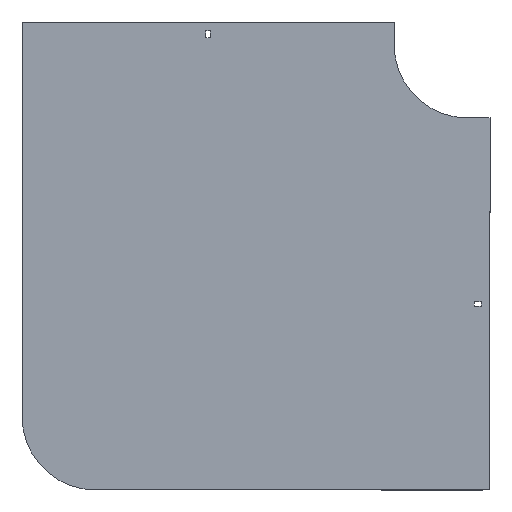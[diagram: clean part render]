
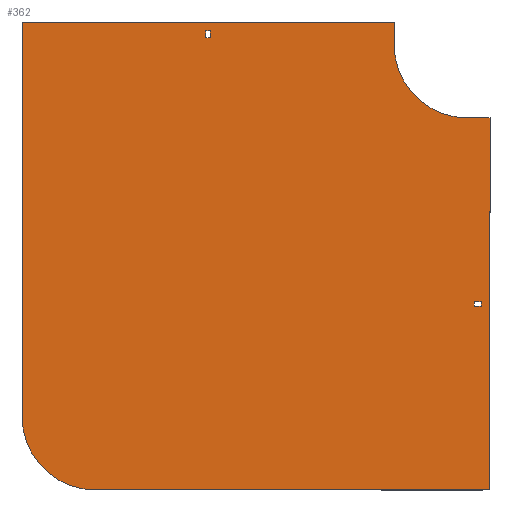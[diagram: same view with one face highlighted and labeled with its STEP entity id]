
A CAD part, front view. The second image highlights one B-rep face of the part: STEP entity #362.
In plain terms, the highlighted planar face has unit normal (0, -1, 0).
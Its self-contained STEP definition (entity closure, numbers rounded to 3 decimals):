
#14 = CARTESIAN_POINT ( 'NONE',  ( 0., 0., 0. ) ) ;
#16 = CARTESIAN_POINT ( 'NONE',  ( -100., 0., 30. ) ) ;
#17 = CARTESIAN_POINT ( 'NONE',  ( 0., 0., 0. ) ) ;
#32 = CIRCLE ( 'NONE', #905, 100. ) ;
#33 = VECTOR ( 'NONE', #1398, 1000. ) ;
#42 = LINE ( 'NONE', #785, #1112 ) ;
#45 = ORIENTED_EDGE ( 'NONE', *, *, #1144, .F. ) ;
#48 = DIRECTION ( 'NONE',  ( 1., 0., 0. ) ) ;
#56 = EDGE_CURVE ( 'NONE', #637, #150, #1167, .T. ) ;
#75 = VECTOR ( 'NONE', #1138, 1000. ) ;
#80 = CARTESIAN_POINT ( 'NONE',  ( 9., 0., -355.25 ) ) ;
#81 = EDGE_CURVE ( 'NONE', #998, #1017, #217, .T. ) ;
#116 = CARTESIAN_POINT ( 'NONE',  ( 30., 0., -604. ) ) ;
#121 = DIRECTION ( 'NONE',  ( -1., 0., 0. ) ) ;
#136 = CARTESIAN_POINT ( 'NONE',  ( -100., 0., 0. ) ) ;
#141 = FACE_OUTER_BOUND ( 'NONE', #956, .T. ) ;
#150 = VERTEX_POINT ( 'NONE', #116 ) ;
#163 = DIRECTION ( 'NONE',  ( 0., 0., -1. ) ) ;
#170 = DIRECTION ( 'NONE',  ( 0., 1., 0. ) ) ;
#172 = VERTEX_POINT ( 'NONE', #471 ) ;
#178 = VERTEX_POINT ( 'NONE', #465 ) ;
#179 = ORIENTED_EDGE ( 'NONE', *, *, #81, .F. ) ;
#205 = VECTOR ( 'NONE', #681, 1000. ) ;
#217 = LINE ( 'NONE', #641, #1132 ) ;
#223 = CARTESIAN_POINT ( 'NONE',  ( 30., 0., -100. ) ) ;
#237 = DIRECTION ( 'NONE',  ( 0., -1., 0. ) ) ;
#240 = EDGE_CURVE ( 'NONE', #1139, #998, #42, .T. ) ;
#268 = ORIENTED_EDGE ( 'NONE', *, *, #406, .F. ) ;
#287 = LINE ( 'NONE', #481, #75 ) ;
#292 = CARTESIAN_POINT ( 'NONE',  ( 9., 0., -355.25 ) ) ;
#362 = ADVANCED_FACE ( 'NONE', ( #650, #141, #1079 ), #976, .T. ) ;
#371 = LINE ( 'NONE', #584, #995 ) ;
#394 = EDGE_CURVE ( 'NONE', #922, #866, #287, .T. ) ;
#398 = LINE ( 'NONE', #490, #908 ) ;
#406 = EDGE_CURVE ( 'NONE', #172, #1123, #32, .T. ) ;
#445 = DIRECTION ( 'NONE',  ( 0., -1., 0. ) ) ;
#463 = LINE ( 'NONE', #1330, #794 ) ;
#465 = CARTESIAN_POINT ( 'NONE',  ( -100., 0., 30. ) ) ;
#470 = CARTESIAN_POINT ( 'NONE',  ( -348.75, 0., 9. ) ) ;
#471 = CARTESIAN_POINT ( 'NONE',  ( -504., 0., -604. ) ) ;
#481 = CARTESIAN_POINT ( 'NONE',  ( -355.25, 0., 9. ) ) ;
#490 = CARTESIAN_POINT ( 'NONE',  ( -604., 0., -504. ) ) ;
#515 = ORIENTED_EDGE ( 'NONE', *, *, #1206, .F. ) ;
#527 = ORIENTED_EDGE ( 'NONE', *, *, #636, .T. ) ;
#531 = DIRECTION ( 'NONE',  ( 0., 0., -1. ) ) ;
#533 = VERTEX_POINT ( 'NONE', #292 ) ;
#538 = CARTESIAN_POINT ( 'NONE',  ( 30., 0., -100. ) ) ;
#549 = ORIENTED_EDGE ( 'NONE', *, *, #1000, .F. ) ;
#553 = ORIENTED_EDGE ( 'NONE', *, *, #1308, .F. ) ;
#569 = VERTEX_POINT ( 'NONE', #614 ) ;
#577 = ORIENTED_EDGE ( 'NONE', *, *, #737, .T. ) ;
#584 = CARTESIAN_POINT ( 'NONE',  ( 9., 0., -355.25 ) ) ;
#602 = CARTESIAN_POINT ( 'NONE',  ( -504., 0., -504. ) ) ;
#604 = VERTEX_POINT ( 'NONE', #886 ) ;
#610 = CARTESIAN_POINT ( 'NONE',  ( -355.25, 0., 18. ) ) ;
#614 = CARTESIAN_POINT ( 'NONE',  ( 0., 0., -100. ) ) ;
#615 = EDGE_LOOP ( 'NONE', ( #713, #943, #45, #179 ) ) ;
#636 = EDGE_CURVE ( 'NONE', #866, #1121, #1323, .T. ) ;
#637 = VERTEX_POINT ( 'NONE', #223 ) ;
#641 = CARTESIAN_POINT ( 'NONE',  ( 9., 0., -348.75 ) ) ;
#650 = FACE_BOUND ( 'NONE', #751, .T. ) ;
#651 = ORIENTED_EDGE ( 'NONE', *, *, #1034, .F. ) ;
#652 = DIRECTION ( 'NONE',  ( 0., 0., -1. ) ) ;
#654 = CARTESIAN_POINT ( 'NONE',  ( 9., 0., -348.75 ) ) ;
#661 = DIRECTION ( 'NONE',  ( 0., 0., -1. ) ) ;
#671 = CARTESIAN_POINT ( 'NONE',  ( 30., 0., -604. ) ) ;
#681 = DIRECTION ( 'NONE',  ( 0., 0., -1. ) ) ;
#700 = ORIENTED_EDGE ( 'NONE', *, *, #394, .T. ) ;
#713 = ORIENTED_EDGE ( 'NONE', *, *, #240, .F. ) ;
#737 = EDGE_CURVE ( 'NONE', #872, #922, #784, .T. ) ;
#751 = EDGE_LOOP ( 'NONE', ( #527, #763, #577, #700 ) ) ;
#763 = ORIENTED_EDGE ( 'NONE', *, *, #829, .T. ) ;
#768 = CARTESIAN_POINT ( 'NONE',  ( 18., 0., -348.75 ) ) ;
#784 = LINE ( 'NONE', #470, #205 ) ;
#785 = CARTESIAN_POINT ( 'NONE',  ( 18., 0., -355.25 ) ) ;
#794 = VECTOR ( 'NONE', #1212, 1000. ) ;
#798 = VECTOR ( 'NONE', #652, 1000. ) ;
#802 = CARTESIAN_POINT ( 'NONE',  ( -604., 0., -504. ) ) ;
#829 = EDGE_CURVE ( 'NONE', #1121, #872, #1113, .T. ) ;
#834 = DIRECTION ( 'NONE',  ( -1., 0., 0. ) ) ;
#850 = ORIENTED_EDGE ( 'NONE', *, *, #1381, .F. ) ;
#852 = CARTESIAN_POINT ( 'NONE',  ( -348.75, 0., 18. ) ) ;
#866 = VERTEX_POINT ( 'NONE', #1142 ) ;
#867 = LINE ( 'NONE', #16, #798 ) ;
#872 = VERTEX_POINT ( 'NONE', #852 ) ;
#886 = CARTESIAN_POINT ( 'NONE',  ( -604., 0., 30. ) ) ;
#905 = AXIS2_PLACEMENT_3D ( 'NONE', #602, #170, #1334 ) ;
#908 = VECTOR ( 'NONE', #1147, 1000. ) ;
#922 = VERTEX_POINT ( 'NONE', #1028 ) ;
#928 = VECTOR ( 'NONE', #48, 1000. ) ;
#943 = ORIENTED_EDGE ( 'NONE', *, *, #1172, .F. ) ;
#946 = CARTESIAN_POINT ( 'NONE',  ( -604., 0., 30. ) ) ;
#956 = EDGE_LOOP ( 'NONE', ( #553, #515, #268, #549, #1146, #651, #1056, #850 ) ) ;
#976 = PLANE ( 'NONE',  #1385 ) ;
#992 = DIRECTION ( 'NONE',  ( 0., 0., -1. ) ) ;
#995 = VECTOR ( 'NONE', #1021, 1000. ) ;
#998 = VERTEX_POINT ( 'NONE', #768 ) ;
#1000 = EDGE_CURVE ( 'NONE', #150, #172, #1086, .T. ) ;
#1017 = VERTEX_POINT ( 'NONE', #654 ) ;
#1020 = VERTEX_POINT ( 'NONE', #136 ) ;
#1021 = DIRECTION ( 'NONE',  ( 1., 0., 0. ) ) ;
#1028 = CARTESIAN_POINT ( 'NONE',  ( -348.75, 0., 9. ) ) ;
#1034 = EDGE_CURVE ( 'NONE', #569, #637, #463, .T. ) ;
#1040 = CARTESIAN_POINT ( 'NONE',  ( 18., 0., -355.25 ) ) ;
#1046 = EDGE_CURVE ( 'NONE', #1020, #569, #1205, .T. ) ;
#1056 = ORIENTED_EDGE ( 'NONE', *, *, #1046, .F. ) ;
#1079 = FACE_BOUND ( 'NONE', #615, .T. ) ;
#1085 = VECTOR ( 'NONE', #121, 1000. ) ;
#1086 = LINE ( 'NONE', #671, #1085 ) ;
#1089 = DIRECTION ( 'NONE',  ( 0., 0., 1. ) ) ;
#1112 = VECTOR ( 'NONE', #1089, 1000. ) ;
#1113 = LINE ( 'NONE', #1126, #928 ) ;
#1121 = VERTEX_POINT ( 'NONE', #610 ) ;
#1123 = VERTEX_POINT ( 'NONE', #802 ) ;
#1126 = CARTESIAN_POINT ( 'NONE',  ( -355.25, 0., 18. ) ) ;
#1132 = VECTOR ( 'NONE', #834, 1000. ) ;
#1138 = DIRECTION ( 'NONE',  ( -1., 0., 0. ) ) ;
#1139 = VERTEX_POINT ( 'NONE', #1040 ) ;
#1142 = CARTESIAN_POINT ( 'NONE',  ( -355.25, 0., 9. ) ) ;
#1144 = EDGE_CURVE ( 'NONE', #1017, #533, #1258, .T. ) ;
#1146 = ORIENTED_EDGE ( 'NONE', *, *, #56, .F. ) ;
#1147 = DIRECTION ( 'NONE',  ( 0., 0., 1. ) ) ;
#1167 = LINE ( 'NONE', #538, #1228 ) ;
#1172 = EDGE_CURVE ( 'NONE', #533, #1139, #371, .T. ) ;
#1205 = CIRCLE ( 'NONE', #1251, 100. ) ;
#1206 = EDGE_CURVE ( 'NONE', #1123, #604, #398, .T. ) ;
#1207 = DIRECTION ( 'NONE',  ( 0., 0., 1. ) ) ;
#1212 = DIRECTION ( 'NONE',  ( 1., 0., 0. ) ) ;
#1228 = VECTOR ( 'NONE', #531, 1000. ) ;
#1251 = AXIS2_PLACEMENT_3D ( 'NONE', #17, #445, #992 ) ;
#1258 = LINE ( 'NONE', #80, #1387 ) ;
#1286 = VECTOR ( 'NONE', #1207, 1000. ) ;
#1287 = CARTESIAN_POINT ( 'NONE',  ( -355.25, 0., 9. ) ) ;
#1308 = EDGE_CURVE ( 'NONE', #604, #178, #1380, .T. ) ;
#1323 = LINE ( 'NONE', #1287, #1286 ) ;
#1330 = CARTESIAN_POINT ( 'NONE',  ( 0., 0., -100. ) ) ;
#1334 = DIRECTION ( 'NONE',  ( 0., 0., 1. ) ) ;
#1380 = LINE ( 'NONE', #946, #33 ) ;
#1381 = EDGE_CURVE ( 'NONE', #178, #1020, #867, .T. ) ;
#1385 = AXIS2_PLACEMENT_3D ( 'NONE', #14, #237, #661 ) ;
#1387 = VECTOR ( 'NONE', #163, 1000. ) ;
#1398 = DIRECTION ( 'NONE',  ( 1., 0., 0. ) ) ;
